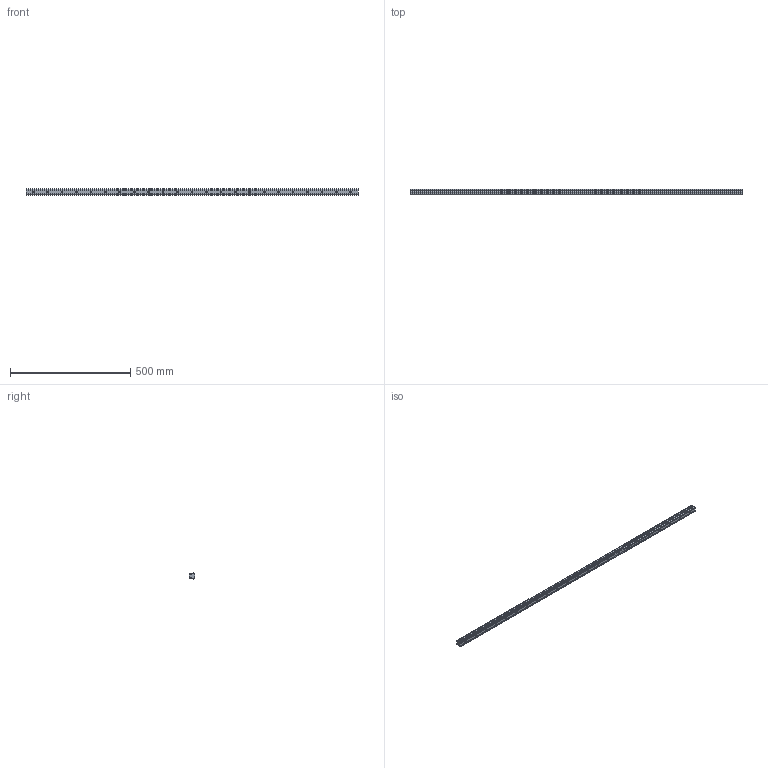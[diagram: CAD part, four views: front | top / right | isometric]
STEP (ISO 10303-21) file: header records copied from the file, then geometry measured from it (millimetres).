
FILE_DESCRIPTION (( 'STEP AP203' ), '1' );
FILE_NAME ('L1018.25R-1380.step', '2023-08-06T10:36:59', ( '' ), ( '' ), 'SwSTEP 2.0', 'SolidWorks 2019', '' );
FILE_SCHEMA (( 'CONFIG_CONTROL_DESIGN' ));
Length unit declared in the file: millimetre
Products named in the file (1): L1018.25R-1380
Bounding box: 1380 x 21.8 x 25 mm (x, y, z)
Volume: 573925.6 mm3; surface area: 137879.1 mm2
Topology: 1 solids, 1 shells, 236 faces, 541 edges, 307 vertices
Faces by surface type: cylinder 95, cone 92, plane 49
Entity records: 6380 total; most frequent: DIRECTION 1205, CARTESIAN_POINT 1039, ORIENTED_EDGE 990, EDGE_CURVE 495, AXIS2_PLACEMENT_3D 473, VERTEX_POINT 307, EDGE_LOOP 282, VECTOR 259
